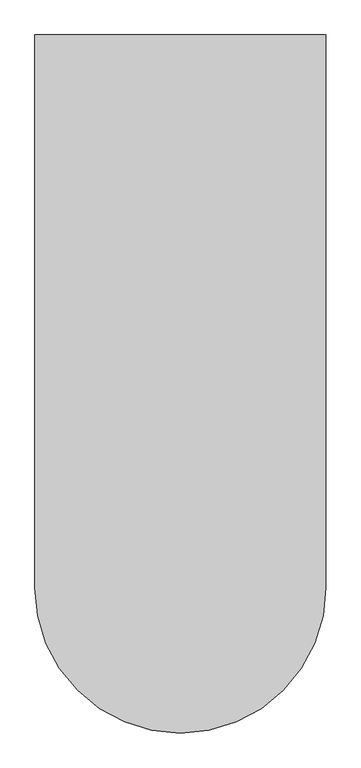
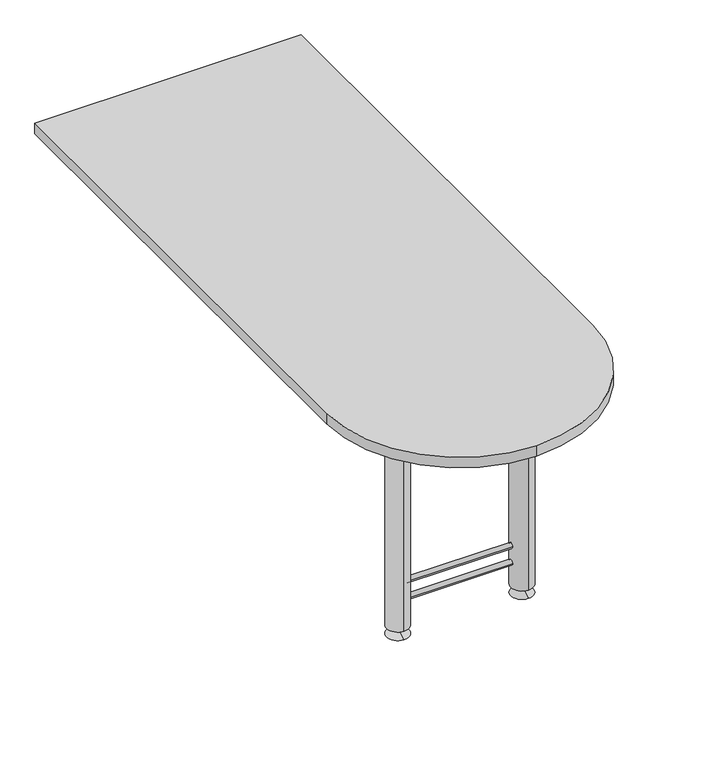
"""IFC4 building model written with IfcOpenShell, lengths in millimetres: furniture geometry."""

from ifc_helpers import new_model, si_unit, point, frame, frame_2d, origin, place, context, project, spatial, polyline, circle_curve, trimmed, segment, composite_curve, outline, extrude, source, transform, mapped, element, save
from ifc_brep_helpers import plane_surface, cylinder_surface, revolved_surface, advanced_brep


def furniture_2231b875(model_context):
    return source(origin(), model_context, "Body", "SolidModel", [
        advanced_brep(
        [(-152.4, -1066.8, 101.6), (-152.4, -1058.8625, 101.6), (-152.4, -1074.7375, 101.6), (152.4, -1074.7375, 101.6), (152.4, -1058.8625, 101.6), (152.4, -1066.8, 101.6)],
        [
            (0, 1),
            (1, 2, circle_curve(frame((-152.4, -1066.8, 101.6), z_axis=(-1.0, 0.0, 0.0), x_axis=(0.0, 1.0, 0.0)), 7.9375)),
            (2, 0),
            (2, 1, circle_curve(frame((-152.4, -1066.8, 101.6), z_axis=(-1.0, 0.0, 0.0), x_axis=(0.0, 1.0, 0.0)), 7.9375)),
            (3, 4, circle_curve(frame((152.4, -1066.8, 101.6), z_axis=(1.0, 0.0, 0.0), x_axis=(0.0, 1.0, 0.0)), 7.9375)),
            (4, 5),
            (5, 3),
            (4, 3, circle_curve(frame((152.4, -1066.8, 101.6), z_axis=(1.0, 0.0, 0.0), x_axis=(0.0, 1.0, 0.0)), 7.9375)),
            (1, 4),
            (3, 2),
        ],
        [
            plane_surface(frame((-152.4, -1066.8, 101.6), z_axis=(-1.0, 0.0, 0.0), x_axis=(0.0, 1.0, 0.0))),
            plane_surface(frame((152.4, -1066.8, 101.6), z_axis=(1.0, 0.0, 0.0), x_axis=(0.0, 1.0, 0.0))),
            cylinder_surface(frame((-171.45, -1066.8, 101.6), z_axis=(-1.0, 0.0, 0.0), x_axis=(0.0, 1.0, 0.0)), 7.9375),
        ],
        [
            (0, [[1, 2, 3]]),
            (0, [[-3, 4, -1]]),
            (1, [[5, 6, 7]]),
            (1, [[8, -7, -6]]),
            (2, [[-2, 9, -5, 10]]),
            (2, [[-4, -10, -8, -9]]),
        ],
    ),
        advanced_brep(
        [(-152.4, -1066.8, 152.4), (-152.4, -1058.8625, 152.4), (-152.4, -1074.7375, 152.4), (152.4, -1074.7375, 152.4), (152.4, -1058.8625, 152.4), (152.4, -1066.8, 152.4)],
        [
            (0, 1),
            (1, 2, circle_curve(frame((-152.4, -1066.8, 152.4), z_axis=(-1.0, 0.0, 0.0), x_axis=(0.0, 1.0, 0.0)), 7.9375)),
            (2, 0),
            (2, 1, circle_curve(frame((-152.4, -1066.8, 152.4), z_axis=(-1.0, 0.0, 0.0), x_axis=(0.0, 1.0, 0.0)), 7.9375)),
            (3, 4, circle_curve(frame((152.4, -1066.8, 152.4), z_axis=(1.0, 0.0, 0.0), x_axis=(0.0, 1.0, 0.0)), 7.9375)),
            (4, 5),
            (5, 3),
            (4, 3, circle_curve(frame((152.4, -1066.8, 152.4), z_axis=(1.0, 0.0, 0.0), x_axis=(0.0, 1.0, 0.0)), 7.9375)),
            (1, 4),
            (3, 2),
        ],
        [
            plane_surface(frame((-152.4, -1066.8, 152.4), z_axis=(-1.0, 0.0, 0.0), x_axis=(0.0, 1.0, 0.0))),
            plane_surface(frame((152.4, -1066.8, 152.4), z_axis=(1.0, 0.0, 0.0), x_axis=(0.0, 1.0, 0.0))),
            cylinder_surface(frame((-158.75, -1066.8, 152.4), z_axis=(-1.0, 0.0, 0.0), x_axis=(0.0, 1.0, 0.0)), 7.9375),
        ],
        [
            (0, [[1, 2, 3]]),
            (0, [[-3, 4, -1]]),
            (1, [[5, 6, 7]]),
            (1, [[8, -7, -6]]),
            (2, [[-2, 9, -5, 10]]),
            (2, [[-4, -10, -8, -9]]),
        ],
    ),
        advanced_brep(
        [(-152.4, -1074.7375, 546.1), (-152.4, -1058.8625, 546.1), (152.4, -1058.8625, 546.1), (152.4, -1074.7375, 546.1), (-152.4, -1066.8, 546.1), (152.4, -1066.8, 546.1)],
        [
            (0, 1, circle_curve(frame((-152.4, -1066.8, 546.1), z_axis=(1.0, 0.0, 0.0), x_axis=(0.0, 1.0, 0.0)), 7.9375)),
            (1, 2),
            (2, 3, circle_curve(frame((152.4, -1066.8, 546.1), z_axis=(-1.0, 0.0, 0.0), x_axis=(0.0, 1.0, 0.0)), 7.9375)),
            (3, 0),
            (1, 0, circle_curve(frame((-152.4, -1066.8, 546.1), z_axis=(1.0, 0.0, 0.0), x_axis=(0.0, 1.0, 0.0)), 7.9375)),
            (3, 2, circle_curve(frame((152.4, -1066.8, 546.1), z_axis=(-1.0, 0.0, 0.0), x_axis=(0.0, 1.0, 0.0)), 7.9375)),
            (4, 1),
            (0, 4),
            (2, 5),
            (5, 3),
        ],
        [
            cylinder_surface(frame((-158.75, -1066.8, 546.1), z_axis=(-1.0, 0.0, 0.0), x_axis=(0.0, 1.0, 0.0)), 7.9375),
            plane_surface(frame((-152.4, -1066.8, 546.1), z_axis=(-1.0, 0.0, 0.0), x_axis=(0.0, 1.0, 0.0))),
            plane_surface(frame((152.4, -1066.8, 546.1), z_axis=(1.0, 0.0, 0.0), x_axis=(0.0, 1.0, 0.0))),
        ],
        [
            (0, [[1, 2, 3, 4]]),
            (0, [[5, -4, 6, -2]]),
            (1, [[7, -1, 8]]),
            (1, [[-8, -5, -7]]),
            (2, [[-3, 9, 10]]),
            (2, [[-6, -10, -9]]),
        ],
    ),
        advanced_brep(
        [(-177.8, -1098.55, 25.4), (-177.8, -1035.05, 25.4), (-177.8, -1035.05, 704.85), (-177.8, -1098.55, 704.85), (-177.8, -1076.325, 25.4), (-177.8, -1057.275, 25.4), (-177.8, -1076.325, 12.7), (-177.8, -1057.275, 12.7), (-177.8, -1098.55, 0.0), (-177.8, -1035.05, 0.0), (-177.8, -1066.8, 0.0), (-177.8, -1066.8, 704.85)],
        [
            (0, 1, circle_curve(frame((-177.8, -1066.8, 25.4), z_axis=(0.0, 0.0, 1.0), x_axis=(0.0, 1.0, 0.0)), 31.75)),
            (1, 2),
            (2, 3, circle_curve(frame((-177.8, -1066.8, 704.85), z_axis=(0.0, 0.0, -1.0), x_axis=(0.0, 1.0, 0.0)), 31.75)),
            (3, 0),
            (1, 0, circle_curve(frame((-177.8, -1066.8, 25.4), z_axis=(0.0, 0.0, 1.0), x_axis=(0.0, 1.0, 0.0)), 31.75)),
            (3, 2, circle_curve(frame((-177.8, -1066.8, 704.85), z_axis=(0.0, 0.0, -1.0), x_axis=(0.0, 1.0, 0.0)), 31.75)),
            (0, 4),
            (4, 5, circle_curve(frame((-177.8, -1066.8, 25.4), z_axis=(0.0, 0.0, 1.0), x_axis=(0.0, 1.0, 0.0)), 9.525)),
            (5, 1),
            (5, 4, circle_curve(frame((-177.8, -1066.8, 25.4), z_axis=(0.0, 0.0, 1.0), x_axis=(0.0, 1.0, 0.0)), 9.525)),
            (4, 6),
            (6, 7, circle_curve(frame((-177.8, -1066.8, 12.7), z_axis=(0.0, 0.0, 1.0), x_axis=(0.0, 1.0, 0.0)), 9.525)),
            (7, 5),
            (7, 6, circle_curve(frame((-177.8, -1066.8, 12.7), z_axis=(0.0, 0.0, 1.0), x_axis=(0.0, 1.0, 0.0)), 9.525)),
            (6, 8),
            (8, 9, circle_curve(frame((-177.8, -1066.8, 0.0), z_axis=(0.0, 0.0, 1.0), x_axis=(0.0, 1.0, 0.0)), 31.75)),
            (9, 7),
            (9, 8, circle_curve(frame((-177.8, -1066.8, 0.0), z_axis=(0.0, 0.0, 1.0), x_axis=(0.0, 1.0, 0.0)), 31.75)),
            (8, 10),
            (10, 9),
            (2, 11),
            (11, 3),
        ],
        [
            cylinder_surface(frame((-177.8, -1066.8, -19.05), z_axis=(0.0, 0.0, -1.0), x_axis=(0.0, 1.0, 0.0)), 31.75),
            plane_surface(frame((-177.8, -1066.8, 25.4), z_axis=(0.0, 0.0, -1.0), x_axis=(0.0, 1.0, 0.0))),
            cylinder_surface(frame((-177.8, -1066.8, -19.05), z_axis=(0.0, 0.0, -1.0), x_axis=(0.0, 1.0, 0.0)), 9.525),
            revolved_surface(polyline([(-177.8, -1057.275, 12.7), (-177.8, -1035.05, 0.0)]), (-177.8, -1066.8, -19.05), (0.0, 0.0, -1.0)),
            plane_surface(frame((-177.8, -1066.8, 0.0), z_axis=(0.0, 0.0, -1.0), x_axis=(0.0, 1.0, 0.0))),
            plane_surface(frame((-177.8, -1066.8, 704.85), z_axis=(0.0, 0.0, 1.0), x_axis=(0.0, 1.0, 0.0))),
        ],
        [
            (0, [[1, 2, 3, 4]]),
            (0, [[-2, 5, -4, 6]]),
            (1, [[-1, 7, 8, 9]]),
            (1, [[-5, -9, 10, -7]]),
            (2, [[-8, 11, 12, 13]]),
            (2, [[-10, -13, 14, -11]]),
            (3, [[-12, 15, 16, 17]]),
            (3, [[-14, -17, 18, -15]]),
            (4, [[-16, 19, 20]]),
            (4, [[-18, -20, -19]]),
            (5, [[-3, 21, 22]]),
            (5, [[-6, -22, -21]]),
        ],
    ),
        advanced_brep(
        [(177.8, -1066.8, 704.85), (177.8, -1035.05, 704.85), (177.8, -1098.55, 704.85), (177.8, -1098.55, 0.0), (177.8, -1035.05, 0.0), (177.8, -1066.8, 0.0), (177.8, -1076.325, 12.7), (177.8, -1057.275, 12.7), (177.8, -1076.325, 25.4), (177.8, -1057.275, 25.4), (177.8, -1098.55, 25.4), (177.8, -1035.05, 25.4)],
        [
            (0, 1),
            (1, 2, circle_curve(frame((177.8, -1066.8, 704.85), z_axis=(0.0, 0.0, 1.0), x_axis=(0.0, 1.0, 0.0)), 31.75)),
            (2, 0),
            (2, 1, circle_curve(frame((177.8, -1066.8, 704.85), z_axis=(0.0, 0.0, 1.0), x_axis=(0.0, 1.0, 0.0)), 31.75)),
            (3, 4, circle_curve(frame((177.8, -1066.8, 0.0), z_axis=(0.0, 0.0, -1.0), x_axis=(0.0, 1.0, 0.0)), 31.75)),
            (4, 5),
            (5, 3),
            (4, 3, circle_curve(frame((177.8, -1066.8, 0.0), z_axis=(0.0, 0.0, -1.0), x_axis=(0.0, 1.0, 0.0)), 31.75)),
            (3, 6),
            (6, 7, circle_curve(frame((177.8, -1066.8, 12.7), z_axis=(0.0, 0.0, -1.0), x_axis=(0.0, 1.0, 0.0)), 9.525)),
            (7, 4),
            (7, 6, circle_curve(frame((177.8, -1066.8, 12.7), z_axis=(0.0, 0.0, -1.0), x_axis=(0.0, 1.0, 0.0)), 9.525)),
            (6, 8),
            (8, 9, circle_curve(frame((177.8, -1066.8, 25.4), z_axis=(0.0, 0.0, -1.0), x_axis=(0.0, 1.0, 0.0)), 9.525)),
            (9, 7),
            (9, 8, circle_curve(frame((177.8, -1066.8, 25.4), z_axis=(0.0, 0.0, -1.0), x_axis=(0.0, 1.0, 0.0)), 9.525)),
            (8, 10),
            (10, 11, circle_curve(frame((177.8, -1066.8, 25.4), z_axis=(0.0, 0.0, -1.0), x_axis=(0.0, 1.0, 0.0)), 31.75)),
            (11, 9),
            (11, 10, circle_curve(frame((177.8, -1066.8, 25.4), z_axis=(0.0, 0.0, -1.0), x_axis=(0.0, 1.0, 0.0)), 31.75)),
            (1, 11),
            (10, 2),
        ],
        [
            plane_surface(frame((177.8, -1066.8, 704.85), z_axis=(0.0, 0.0, 1.0), x_axis=(0.0, 1.0, 0.0))),
            plane_surface(frame((177.8, -1066.8, 0.0), z_axis=(0.0, 0.0, -1.0), x_axis=(0.0, 1.0, 0.0))),
            revolved_surface(polyline([(177.8, -1035.05, 0.0), (177.8, -1057.275, 12.7)]), (177.8, -1066.8, -19.05), (0.0, 0.0, 1.0)),
            cylinder_surface(frame((177.8, -1066.8, -19.05), z_axis=(0.0, 0.0, 1.0), x_axis=(0.0, 1.0, 0.0)), 9.525),
            plane_surface(frame((177.8, -1066.8, 25.4), z_axis=(0.0, 0.0, -1.0), x_axis=(0.0, 1.0, 0.0))),
            cylinder_surface(frame((177.8, -1066.8, -19.05), z_axis=(0.0, 0.0, 1.0), x_axis=(0.0, 1.0, 0.0)), 31.75),
        ],
        [
            (0, [[1, 2, 3]]),
            (0, [[-1, -3, 4]]),
            (1, [[5, 6, 7]]),
            (1, [[-6, 8, -7]]),
            (2, [[-5, 9, 10, 11]]),
            (2, [[-8, -11, 12, -9]]),
            (3, [[-10, 13, 14, 15]]),
            (3, [[-12, -15, 16, -13]]),
            (4, [[-14, 17, 18, 19]]),
            (4, [[-16, -19, 20, -17]]),
            (5, [[-2, 21, -18, 22]]),
            (5, [[-4, -22, -20, -21]]),
        ],
    ),
        advanced_brep(
        [(-152.4, -1074.7375, 596.9), (-152.4, -1058.8625, 596.9), (152.4, -1058.8625, 596.9), (152.4, -1074.7375, 596.9), (-152.4, -1066.8, 596.9), (152.4, -1066.8, 596.9)],
        [
            (0, 1, circle_curve(frame((-152.4, -1066.8, 596.9), z_axis=(1.0, 0.0, 0.0), x_axis=(0.0, 1.0, 0.0)), 7.9375)),
            (1, 2),
            (2, 3, circle_curve(frame((152.4, -1066.8, 596.9), z_axis=(-1.0, 0.0, 0.0), x_axis=(0.0, 1.0, 0.0)), 7.9375)),
            (3, 0),
            (1, 0, circle_curve(frame((-152.4, -1066.8, 596.9), z_axis=(1.0, 0.0, 0.0), x_axis=(0.0, 1.0, 0.0)), 7.9375)),
            (3, 2, circle_curve(frame((152.4, -1066.8, 596.9), z_axis=(-1.0, 0.0, 0.0), x_axis=(0.0, 1.0, 0.0)), 7.9375)),
            (4, 1),
            (0, 4),
            (2, 5),
            (5, 3),
        ],
        [
            cylinder_surface(frame((173.1827696, -1066.8, 596.9), z_axis=(-1.0, 0.0, 0.0), x_axis=(0.0, 1.0, 0.0)), 7.9375),
            plane_surface(frame((-152.4, -1066.8, 596.9), z_axis=(-1.0, 0.0, 0.0), x_axis=(0.0, 1.0, 0.0))),
            plane_surface(frame((152.4, -1066.8, 596.9), z_axis=(1.0, 0.0, 0.0), x_axis=(0.0, 1.0, 0.0))),
        ],
        [
            (0, [[1, 2, 3, 4]]),
            (0, [[5, -4, 6, -2]]),
            (1, [[7, -1, 8]]),
            (1, [[-8, -5, -7]]),
            (2, [[-3, 9, 10]]),
            (2, [[-6, -10, -9]]),
        ],
    ),
        extrude(outline(composite_curve([segment(polyline([(381.0, 381.0), (381.0, -1066.8)]), True, "CONTINUOUS"), segment(trimmed(circle_curve(frame_2d((0.0, -1066.8)), 381.0), [point((381.0, -1066.8))], [point((0.0, -1447.8))], False, "CARTESIAN"), True, "CONTINUOUS"), segment(trimmed(circle_curve(frame_2d((0.0, -1066.8)), 381.0), [point((0.0, -1447.8))], [point((-381.0, -1066.8))], False, "CARTESIAN"), True, "CONTINUOUS"), segment(polyline([(-381.0, -1066.8), (-381.0, 381.0), (381.0, 381.0)]), True, "CONTINUOUS")], self_intersect=False)), frame((0.0, 0.0, 704.85), z_axis=(0.0, 0.0, 1.0), x_axis=(1.0, 0.0, 0.0)), (0.0, 0.0, 1.0), 31.75),
    ])


if __name__ == "__main__":
    model = new_model("IFC4")
    model_context = context("Model", 3, world=origin())
    ifc_project = project(units=[si_unit("LENGTHUNIT", "METRE", prefix="MILLI")], contexts=[model_context])
    site = spatial("IfcSite", under=ifc_project)
    building = spatial("IfcBuilding", under=site)
    placement = place(None, origin())
    furniture_shape = furniture_2231b875(model_context)
    element("IfcFurniture", 1, ObjectType="HermanMiller_ActionOffice_A2350_Sq-EdgeRound-EndPeninsula : 30\"D x 72\"W", at=placement, inside=building, context=model_context, shape_type="MappedRepresentation", body=[
        mapped(furniture_shape, transform((0.0, 0.0, 0.0), x_axis=(1.0, 0.0, 0.0), y_axis=(0.0, 1.0, 0.0), z_axis=(0.0, 0.0, 1.0))),
    ])
    save(model, "model.ifc")
